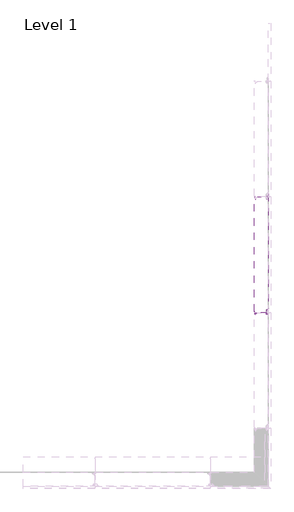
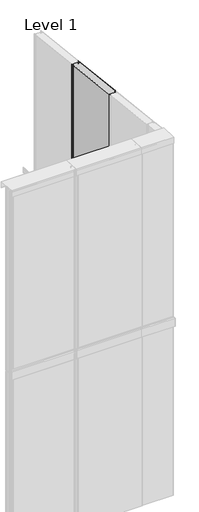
# One storey, part 8 of 12: 1 plate.
"""IFC4 building model written with IfcOpenShell, lengths in millimetres."""

from ifc_helpers import new_model, si_unit, frame, origin, place, context, project, spatial, polyline, circle_curve, ellipse_curve, element, save
from ifc_brep_helpers import plane_surface, cylinder_surface, revolved_surface, advanced_brep

model = new_model("IFC4")

# Units and contexts
model_context = context("Model", 3, world=origin())
ifc_project = project(units=[si_unit("LENGTHUNIT", "METRE", prefix="MILLI")], contexts=[model_context])

# Site, building, storey
site = spatial("IfcSite", under=ifc_project)
building = spatial("IfcBuilding", under=site)
storey = spatial("IfcBuildingStorey", under=building, Name="Level 1", Elevation=0.0)

# Plate
placement = place(None, origin())
element("IfcPlate", 1, ObjectType="TR_C_V_FHL_Panel : 120/RAL9006/RAL9002", at=placement, inside=storey, context=model_context, shape_type="AdvancedBrep", body=[
    advanced_brep(
    [(-3994.9155057, 6494.7075287, 3000.0), (-3995.5197088, 6496.0971008, 3000.0), (-3997.4653075, 6497.9114009, 3000.0), (-3999.3155057, 6497.1069118, 3000.0), (-3999.3155057, 6464.7801836, 3000.0), (-3999.4952944, 6463.7058087, 3000.0), (-4001.8344941, 6456.9122794, 3000.0), (-4011.3488891, 6458.0805002, 3000.0), (-4012.2128026, 6467.9550766, 3000.0), (-4013.9063336, 6469.5069118, 3000.0), (-4014.9155057, 6469.5069118, 3000.0), (-4014.9155057, 6470.3069118, 3000.0), (-4013.9063336, 6470.3069118, 3000.0), (-4011.4158468, 6468.0248012, 3000.0), (-4010.5519334, 6458.1502248, 3000.0), (-4002.5909089, 6457.1727339, 3000.0), (-4000.2517092, 6463.9662632, 3000.0), (-4000.1155057, 6464.7801836, 3000.0), (-4000.1155057, 6497.1069118, 3000.0), (-3996.9197088, 6498.4964839, 3000.0), (-3994.9741101, 6496.6821837, 3000.0), (-3994.1155057, 6494.7075287, 3000.0), (-3994.1155057, 5506.1698321, 3000.0), (-3994.9063173, 5504.2606438, 3000.0), (-3999.7297192, 5499.4372419, 3000.0), (-4000.3155057, 5498.0230283, 3000.0), (-4000.3155057, 5495.2069118, 3000.0), (-4003.0155057, 5492.5069118, 3000.0), (-4008.9155057, 5492.5069118, 3000.0), (-4010.9155057, 5490.5069118, 3000.0), (-4010.9155057, 5471.4069118, 3000.0), (-4009.8237435, 5458.9280134, 3000.0), (-4003.610261, 5458.1650937, 3000.0), (-4003.3006468, 5459.0642787, 3000.0), (-4002.544232, 5458.8038241, 3000.0), (-4002.8538462, 5457.9046392, 3000.0), (-4010.6206993, 5458.8582889, 3000.0), (-4011.7155057, 5471.3719831, 3000.0), (-4011.7155057, 5490.5069118, 3000.0), (-4008.9155057, 5493.3069118, 3000.0), (-4003.0155057, 5493.3069118, 3000.0), (-4001.1155057, 5495.2069118, 3000.0), (-4001.1155057, 5498.0230283, 3000.0), (-4000.2954046, 5500.0029273, 3000.0), (-3995.4720028, 5504.8263292, 3000.0), (-3994.9155057, 5506.1698321, 3000.0), (-3994.1155057, 6494.7075287, 5700.3371376), (-3994.1155057, 5506.1698321, 5815.2833814), (-3994.9155057, 5506.1698321, 5815.2833814), (-3994.9155057, 6494.7075287, 5700.3371376), (-3995.4720028, 5504.8263292, 5815.4396027), (-4000.2954046, 5500.0029273, 5816.0004633), (-4001.1155057, 5498.0230283, 5816.2306842), (-4001.1155057, 5495.2069118, 5816.5581396), (-4003.0155057, 5493.3069118, 5816.7790698), (-4008.9155057, 5493.3069118, 5816.7790698), (-4011.7155057, 5490.5069118, 5817.1046512), (-4011.7155057, 5471.3719831, 5819.3296429), (-4010.6206993, 5458.8582889, 5820.7847236), (-4002.8538462, 5457.9046392, 5820.8956131), (-4002.544232, 5458.8038241, 5820.7910567), (-4003.3006468, 5459.0642787, 5820.7607713), (-4003.610261, 5458.1650937, 5820.8653277), (-4009.8237435, 5458.9280134, 5820.7766161), (-4010.9155057, 5471.4069118, 5819.3255814), (-4010.9155057, 5490.5069118, 5817.1046512), (-4008.9155057, 5492.5069118, 5816.8720931), (-4003.0155057, 5492.5069118, 5816.8720931), (-4000.3155057, 5495.2069118, 5816.5581396), (-4000.3155057, 5498.0230283, 5816.2306842), (-3999.7297192, 5499.4372419, 5816.0662407), (-3994.9063173, 5504.2606438, 5815.50538), (-3994.9741101, 6496.6821837, 5700.1075266), (-3996.9197088, 6498.4964839, 5699.8965614), (-4000.1155057, 6497.1069118, 5700.0581396), (-4000.1155057, 6464.7801836, 5703.8170615), (-4000.2517092, 6463.9662632, 5703.9117034), (-4002.5909089, 6457.1727339, 5704.7016486), (-4010.5519334, 6458.1502248, 5704.5879869), (-4011.4158468, 6468.0248012, 5703.4397803), (-4013.9063336, 6470.3069118, 5703.1744186), (-4014.9155057, 6470.3069118, 5703.1744186), (-4014.9155057, 6469.5069118, 5703.2674419), (-4013.9063336, 6469.5069118, 5703.2674419), (-4012.2128026, 6467.9550766, 5703.4478879), (-4011.3488891, 6458.0805002, 5704.5960944), (-4001.8344941, 6456.9122794, 5704.731934), (-3999.4952944, 6463.7058087, 5703.9419888), (-3999.3155057, 6464.7801836, 5703.8170615), (-3999.3155057, 6497.1069118, 5700.0581396), (-3997.4653075, 6497.9114009, 5699.9645943), (-3995.5197088, 6496.0971008, 5700.1755595)],
    [
        (0, 1, circle_curve(frame((-3996.8155057, 6494.7075287, 3000.0), z_axis=(0.0, 0.0, 1.0), x_axis=(0.0, -1.0, 0.0)), 1.9)),
        (1, 2),
        (2, 3, circle_curve(frame((-3998.2155057, 6497.1069118, 3000.0), z_axis=(0.0, 0.0, 1.0), x_axis=(0.0, -1.0, 0.0)), 1.1)),
        (3, 4),
        (4, 5, circle_curve(frame((-4002.6155057, 6464.7801836, 3000.0), z_axis=(0.0, 0.0, -1.0), x_axis=(0.0, -1.0, 0.0)), 3.3)),
        (5, 6),
        (6, 7, circle_curve(frame((-4006.4675351, 6458.5075634, 3000.0), z_axis=(0.0, 0.0, -1.0), x_axis=(0.0, -1.0, 0.0)), 4.9)),
        (7, 8),
        (8, 9, circle_curve(frame((-4013.9063336, 6467.8069118, 3000.0), z_axis=(0.0, 0.0, 1.0), x_axis=(0.0, -1.0, 0.0)), 1.7)),
        (9, 10),
        (10, 11),
        (11, 12),
        (12, 13, circle_curve(frame((-4013.9063336, 6467.8069118, 3000.0), z_axis=(0.0, 0.0, -1.0), x_axis=(0.0, -1.0, 0.0)), 2.5)),
        (13, 14),
        (14, 15, circle_curve(frame((-4006.4675351, 6458.5075634, 3000.0), z_axis=(0.0, 0.0, 1.0), x_axis=(0.0, -1.0, 0.0)), 4.1)),
        (15, 16),
        (16, 17, circle_curve(frame((-4002.6155057, 6464.7801836, 3000.0), z_axis=(0.0, 0.0, 1.0), x_axis=(0.0, -1.0, 0.0)), 2.5)),
        (17, 18),
        (18, 19, circle_curve(frame((-3998.2155057, 6497.1069118, 3000.0), z_axis=(0.0, 0.0, -1.0), x_axis=(0.0, -1.0, 0.0)), 1.9)),
        (19, 20),
        (20, 21, circle_curve(frame((-3996.8155057, 6494.7075287, 3000.0), z_axis=(0.0, 0.0, -1.0), x_axis=(0.0, -1.0, 0.0)), 2.7)),
        (21, 22),
        (22, 23, circle_curve(frame((-3996.8155057, 5506.1698321, 3000.0), z_axis=(0.0, 0.0, -1.0), x_axis=(0.0, -1.0, 0.0)), 2.7)),
        (23, 24),
        (24, 25, circle_curve(frame((-3998.3155057, 5498.0230283, 3000.0), z_axis=(0.0, 0.0, 1.0), x_axis=(0.0, -1.0, 0.0)), 2.0)),
        (25, 26),
        (26, 27, circle_curve(frame((-4003.0155057, 5495.2069118, 3000.0), z_axis=(0.0, 0.0, -1.0), x_axis=(0.0, -1.0, 0.0)), 2.7)),
        (27, 28),
        (28, 29, circle_curve(frame((-4008.9155057, 5490.5069118, 3000.0), z_axis=(0.0, 0.0, 1.0), x_axis=(0.0, -1.0, 0.0)), 2.0)),
        (29, 30),
        (30, 31),
        (31, 32, circle_curve(frame((-4006.6359205, 5459.2069118, 3000.0), z_axis=(0.0, 0.0, 1.0), x_axis=(0.0, -1.0, 0.0)), 3.2)),
        (32, 33),
        (33, 34),
        (34, 35),
        (35, 36, circle_curve(frame((-4006.6359205, 5459.2069118, 3000.0), z_axis=(0.0, 0.0, -1.0), x_axis=(0.0, -1.0, 0.0)), 4.0)),
        (36, 37),
        (37, 38),
        (38, 39, circle_curve(frame((-4008.9155057, 5490.5069118, 3000.0), z_axis=(0.0, 0.0, -1.0), x_axis=(0.0, -1.0, 0.0)), 2.8)),
        (39, 40),
        (40, 41, circle_curve(frame((-4003.0155057, 5495.2069118, 3000.0), z_axis=(0.0, 0.0, 1.0), x_axis=(0.0, -1.0, 0.0)), 1.9)),
        (41, 42),
        (42, 43, circle_curve(frame((-3998.3155057, 5498.0230283, 3000.0), z_axis=(0.0, 0.0, -1.0), x_axis=(0.0, -1.0, 0.0)), 2.8)),
        (43, 44),
        (44, 45, circle_curve(frame((-3996.8155057, 5506.1698321, 3000.0), z_axis=(0.0, 0.0, 1.0), x_axis=(0.0, -1.0, 0.0)), 1.9)),
        (45, 0),
        (21, 46),
        (46, 47),
        (47, 22),
        (45, 48),
        (48, 49),
        (49, 0),
        (44, 50),
        (50, 48, ellipse_curve(frame((-3996.8155057, 5506.1698321, 5815.2833814), z_axis=(0.0, 0.1155008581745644, 0.9933073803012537), x_axis=(0.0, 0.9933073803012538, -0.11550085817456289)), 1.9128017, 1.9)),
        (43, 51),
        (51, 50),
        (42, 52),
        (52, 51, ellipse_curve(frame((-3998.3155057, 5498.0230283, 5816.2306842), z_axis=(0.0, -0.1155008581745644, -0.9933073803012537), x_axis=(0.0, -0.9933073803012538, 0.11550085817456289)), 2.8188656, 2.8)),
        (41, 53),
        (53, 52),
        (40, 54),
        (54, 53, ellipse_curve(frame((-4003.0155057, 5495.2069118, 5816.5581396), z_axis=(0.0, 0.1155008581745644, 0.9933073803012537), x_axis=(0.0, 0.9933073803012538, -0.11550085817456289)), 1.9128017, 1.9)),
        (39, 55),
        (55, 54),
        (38, 56),
        (56, 55, ellipse_curve(frame((-4008.9155057, 5490.5069118, 5817.1046512), z_axis=(0.0, -0.1155008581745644, -0.9933073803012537), x_axis=(0.0, -0.9933073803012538, 0.11550085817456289)), 2.8188656, 2.8)),
        (37, 57),
        (57, 56),
        (36, 58),
        (58, 57),
        (35, 59),
        (59, 58, ellipse_curve(frame((-4006.6359205, 5459.2069118, 5820.7441861), z_axis=(0.0, -0.1155008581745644, -0.9933073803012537), x_axis=(0.0, -0.9933073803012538, 0.11550085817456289)), 4.0269509, 4.0)),
        (34, 60),
        (60, 59),
        (33, 61),
        (61, 60),
        (32, 62),
        (62, 61),
        (31, 63),
        (63, 62, ellipse_curve(frame((-4006.6359205, 5459.2069118, 5820.7441861), z_axis=(0.0, 0.1155008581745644, 0.9933073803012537), x_axis=(0.0, 0.9933073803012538, -0.11550085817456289)), 3.2215607, 3.2)),
        (30, 64),
        (64, 63),
        (29, 65),
        (65, 64),
        (28, 66),
        (66, 65, ellipse_curve(frame((-4008.9155057, 5490.5069118, 5817.1046512), z_axis=(0.0, 0.1155008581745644, 0.9933073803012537), x_axis=(0.0, 0.9933073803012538, -0.11550085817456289)), 2.0134754, 2.0)),
        (27, 67),
        (67, 66),
        (26, 68),
        (68, 67, ellipse_curve(frame((-4003.0155057, 5495.2069118, 5816.5581396), z_axis=(0.0, -0.1155008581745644, -0.9933073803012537), x_axis=(0.0, -0.9933073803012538, 0.11550085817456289)), 2.7181918, 2.7)),
        (25, 69),
        (69, 68),
        (24, 70),
        (70, 69, ellipse_curve(frame((-3998.3155057, 5498.0230283, 5816.2306842), z_axis=(0.0, 0.1155008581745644, 0.9933073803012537), x_axis=(0.0, 0.9933073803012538, -0.11550085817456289)), 2.0134754, 2.0)),
        (23, 71),
        (71, 70),
        (47, 71, ellipse_curve(frame((-3996.8155057, 5506.1698321, 5815.2833814), z_axis=(0.0, -0.1155008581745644, -0.9933073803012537), x_axis=(0.0, -0.9933073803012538, 0.11550085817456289)), 2.7181918, 2.7)),
        (20, 72),
        (72, 46, ellipse_curve(frame((-3996.8155057, 6494.7075287, 5700.3371376), z_axis=(0.0, -0.1155008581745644, -0.9933073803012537), x_axis=(0.0, -0.9933073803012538, 0.11550085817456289)), 2.7181918, 2.7)),
        (19, 73),
        (73, 72),
        (18, 74),
        (74, 73, ellipse_curve(frame((-3998.2155057, 6497.1069118, 5700.0581396), z_axis=(0.0, -0.1155008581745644, -0.9933073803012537), x_axis=(0.0, -0.9933073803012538, 0.11550085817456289)), 1.9128017, 1.9)),
        (17, 75),
        (75, 74),
        (16, 76),
        (76, 75, ellipse_curve(frame((-4002.6155057, 6464.7801836, 5703.8170615), z_axis=(0.0, 0.1155008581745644, 0.9933073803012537), x_axis=(0.0, 0.9933073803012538, -0.11550085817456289)), 2.5168443, 2.5)),
        (15, 77),
        (77, 76),
        (14, 78),
        (78, 77, ellipse_curve(frame((-4006.4675351, 6458.5075634, 5704.5464359), z_axis=(0.0, 0.1155008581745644, 0.9933073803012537), x_axis=(0.0, 0.9933073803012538, -0.11550085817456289)), 4.1276246, 4.1)),
        (13, 79),
        (79, 78),
        (12, 80),
        (80, 79, ellipse_curve(frame((-4013.9063336, 6467.8069118, 5703.4651163), z_axis=(0.0, -0.1155008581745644, -0.9933073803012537), x_axis=(0.0, -0.9933073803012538, 0.11550085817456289)), 2.5168443, 2.5)),
        (11, 81),
        (81, 80),
        (10, 82),
        (82, 81),
        (9, 83),
        (83, 82),
        (8, 84),
        (84, 83, ellipse_curve(frame((-4013.9063336, 6467.8069118, 5703.4651163), z_axis=(0.0, 0.1155008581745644, 0.9933073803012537), x_axis=(0.0, 0.9933073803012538, -0.11550085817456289)), 1.7114541, 1.7)),
        (7, 85),
        (85, 84),
        (6, 86),
        (86, 85, ellipse_curve(frame((-4006.4675351, 6458.5075634, 5704.5464359), z_axis=(0.0, -0.1155008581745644, -0.9933073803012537), x_axis=(0.0, -0.9933073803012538, 0.11550085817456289)), 4.9330148, 4.9)),
        (5, 87),
        (87, 86),
        (4, 88),
        (88, 87, ellipse_curve(frame((-4002.6155057, 6464.7801836, 5703.8170615), z_axis=(0.0, -0.1155008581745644, -0.9933073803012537), x_axis=(0.0, -0.9933073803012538, 0.11550085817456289)), 3.3222345, 3.3)),
        (3, 89),
        (89, 88),
        (2, 90),
        (90, 89, ellipse_curve(frame((-3998.2155057, 6497.1069118, 5700.0581396), z_axis=(0.0, 0.1155008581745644, 0.9933073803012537), x_axis=(0.0, 0.9933073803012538, -0.11550085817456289)), 1.1074115, 1.1)),
        (1, 91),
        (91, 90),
        (49, 91, ellipse_curve(frame((-3996.8155057, 6494.7075287, 5700.3371376), z_axis=(0.0, 0.1155008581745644, 0.9933073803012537), x_axis=(0.0, 0.9933073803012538, -0.11550085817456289)), 1.9128017, 1.9)),
    ],
    [
        plane_surface(frame((-3994.9155057, 5485.2850853, 3000.0), z_axis=(0.0, 0.0, -1.0), x_axis=(0.0, 1.0, 0.0))),
        plane_surface(frame((-3994.1155057, 5506.1698321, 5980.0), z_axis=(1.0, 0.0, 0.0), x_axis=(0.0, 0.0, -1.0))),
        plane_surface(frame((-3994.9155057, 6494.7075287, 5980.0), z_axis=(-1.0, 0.0, 0.0), x_axis=(0.0, 0.0, -1.0))),
        revolved_surface(polyline([(-3996.8155057, 5504.269832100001, 3000.0), (-3996.8155057, 5504.269832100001, 5815.504311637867)]), (-3996.8155057, 5506.1698321, 3000.0), (0.0, 0.0, -1.0)),
        plane_surface(frame((-3995.4720028, 5504.8263292, 5980.0), z_axis=(-0.7071067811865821, 0.7071067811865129, 0.0), x_axis=(0.0, 0.0, -1.0))),
        cylinder_surface(frame((-3998.3155057, 5498.0230283, 3000.0), z_axis=(0.0, 0.0, 1.0), x_axis=(0.0, -1.0, 0.0)), 2.8),
        plane_surface(frame((-4001.1155057, 5498.0230283, 5980.0), z_axis=(-1.0, 0.0, 0.0), x_axis=(0.0, 0.0, -1.0))),
        revolved_surface(polyline([(-4003.0155057, 5493.3069118, 3000.0), (-4003.0155057, 5493.3069118, 5816.779069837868)]), (-4003.0155057, 5495.2069118, 3000.0), (0.0, 0.0, -1.0)),
        plane_surface(frame((-4003.0155057, 5493.3069118, 5980.0), z_axis=(0.0, 1.0, 0.0), x_axis=(0.0, 0.0, -1.0))),
        cylinder_surface(frame((-4008.9155057, 5490.5069118, 3000.0), z_axis=(0.0, 0.0, 1.0), x_axis=(0.0, -1.0, 0.0)), 2.8),
        plane_surface(frame((-4011.7155057, 5490.5069118, 5980.0), z_axis=(-1.0, 0.0, 0.0), x_axis=(0.0, 0.0, -1.0))),
        plane_surface(frame((-4011.7155057, 5471.3719831, 5980.0), z_axis=(-0.9961946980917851, -0.08715574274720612, 0.0), x_axis=(0.0, 0.0, -1.0))),
        cylinder_surface(frame((-4006.6359205, 5459.2069118, 3000.0), z_axis=(0.0, 0.0, 1.0), x_axis=(0.0, -1.0, 0.0)), 4.0),
        plane_surface(frame((-4002.8538462, 5457.9046392, 5980.0), z_axis=(0.9455185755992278, -0.32556815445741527, 0.0), x_axis=(0.0, 0.0, -1.0))),
        plane_surface(frame((-4002.544232, 5458.8038241, 5980.0), z_axis=(0.325568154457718, 0.9455185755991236, 0.0), x_axis=(0.0, 0.0, -1.0))),
        plane_surface(frame((-4003.3006468, 5459.0642787, 5980.0), z_axis=(-0.9455185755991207, 0.32556815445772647, 0.0), x_axis=(0.0, 0.0, -1.0))),
        revolved_surface(polyline([(-4006.6359205, 5456.0069118, 3000.0), (-4006.6359205, 5456.0069118, 5821.116279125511)]), (-4006.6359205, 5459.2069118, 3000.0), (0.0, 0.0, -1.0)),
        plane_surface(frame((-4009.8237435, 5458.9280134, 5980.0), z_axis=(0.9961946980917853, 0.08715574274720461, 0.0), x_axis=(0.0, 0.0, -1.0))),
        plane_surface(frame((-4010.9155057, 5471.4069118, 5980.0), z_axis=(1.0, 0.0, 0.0), x_axis=(0.0, 0.0, -1.0))),
        revolved_surface(polyline([(-4008.9155057, 5488.5069118, 3000.0), (-4008.9155057, 5488.5069118, 5817.337209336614)]), (-4008.9155057, 5490.5069118, 3000.0), (0.0, 0.0, -1.0)),
        plane_surface(frame((-4008.9155057, 5492.5069118, 5980.0), z_axis=(0.0, -1.0, 0.0), x_axis=(0.0, 0.0, -1.0))),
        cylinder_surface(frame((-4003.0155057, 5495.2069118, 3000.0), z_axis=(0.0, 0.0, 1.0), x_axis=(0.0, -1.0, 0.0)), 2.7),
        plane_surface(frame((-4000.3155057, 5495.2069118, 5980.0), z_axis=(1.0, 0.0, 0.0), x_axis=(0.0, 0.0, -1.0))),
        revolved_surface(polyline([(-3998.3155057, 5496.0230283, 3000.0), (-3998.3155057, 5496.0230283, 5816.463242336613)]), (-3998.3155057, 5498.0230283, 3000.0), (0.0, 0.0, -1.0)),
        plane_surface(frame((-3999.7297192, 5499.4372419, 5980.0), z_axis=(0.7071067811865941, -0.707106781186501, 0.0), x_axis=(0.0, 0.0, -1.0))),
        cylinder_surface(frame((-3996.8155057, 5506.1698321, 3000.0), z_axis=(0.0, 0.0, 1.0), x_axis=(0.0, -1.0, 0.0)), 2.7),
        cylinder_surface(frame((-3996.8155057, 6494.7075287, 3000.0), z_axis=(0.0, 0.0, 1.0), x_axis=(0.0, -1.0, 0.0)), 2.7),
        plane_surface(frame((-3994.9741101, 6496.6821837, 5980.0), z_axis=(0.6819983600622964, 0.7313537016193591, 0.0), x_axis=(0.0, 0.0, -1.0))),
        cylinder_surface(frame((-3998.2155057, 6497.1069118, 3000.0), z_axis=(0.0, 0.0, 1.0), x_axis=(0.0, -1.0, 0.0)), 1.9),
        plane_surface(frame((-4000.1155057, 6497.1069118, 5980.0), z_axis=(-1.0, 0.0, 0.0), x_axis=(0.0, 0.0, -1.0))),
        revolved_surface(polyline([(-4002.6155057, 6462.2801836, 3000.0), (-4002.6155057, 6462.2801836, 5704.107759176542)]), (-4002.6155057, 6464.7801836, 3000.0), (0.0, 0.0, -1.0)),
        plane_surface(frame((-4000.2517092, 6463.9662632, 5980.0), z_axis=(-0.9455185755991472, 0.3255681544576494, 0.0), x_axis=(0.0, 0.0, -1.0))),
        revolved_surface(polyline([(-4006.4675351, 6454.4075634, 3000.0), (-4006.4675351, 6454.4075634, 5705.023180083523)]), (-4006.4675351, 6458.5075634, 3000.0), (0.0, 0.0, -1.0)),
        plane_surface(frame((-4010.5519334, 6458.1502248, 5980.0), z_axis=(0.9961946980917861, 0.08715574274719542, 0.0), x_axis=(0.0, 0.0, -1.0))),
        cylinder_surface(frame((-4013.9063336, 6467.8069118, 3000.0), z_axis=(0.0, 0.0, 1.0), x_axis=(0.0, -1.0, 0.0)), 2.5),
        plane_surface(frame((-4013.9063336, 6470.3069118, 5980.0), z_axis=(0.0, 1.0, 0.0), x_axis=(0.0, 0.0, -1.0))),
        plane_surface(frame((-4014.9155057, 6470.3069118, 5980.0), z_axis=(-1.0, 0.0, 0.0), x_axis=(0.0, 0.0, -1.0))),
        plane_surface(frame((-4014.9155057, 6469.5069118, 5980.0), z_axis=(0.0, -1.0, 0.0), x_axis=(0.0, 0.0, -1.0))),
        revolved_surface(polyline([(-4013.9063336, 6466.1069118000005, 3000.0), (-4013.9063336, 6466.1069118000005, 5703.662790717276)]), (-4013.9063336, 6467.8069118, 3000.0), (0.0, 0.0, -1.0)),
        plane_surface(frame((-4012.2128026, 6467.9550766, 5980.0), z_axis=(-0.9961946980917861, -0.08715574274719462, 0.0), x_axis=(0.0, 0.0, -1.0))),
        cylinder_surface(frame((-4006.4675351, 6458.5075634, 3000.0), z_axis=(0.0, 0.0, 1.0), x_axis=(0.0, -1.0, 0.0)), 4.9),
        plane_surface(frame((-4001.8344941, 6456.9122794, 5980.0), z_axis=(0.9455185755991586, -0.3255681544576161, 0.0), x_axis=(0.0, 0.0, -1.0))),
        cylinder_surface(frame((-4002.6155057, 6464.7801836, 3000.0), z_axis=(0.0, 0.0, 1.0), x_axis=(0.0, -1.0, 0.0)), 3.3),
        plane_surface(frame((-3999.3155057, 6464.7801836, 5980.0), z_axis=(1.0, 0.0, 0.0), x_axis=(0.0, 0.0, -1.0))),
        revolved_surface(polyline([(-3998.2155057, 6496.006911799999, 3000.0), (-3998.2155057, 6496.006911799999, 5700.186046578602)]), (-3998.2155057, 6497.1069118, 3000.0), (0.0, 0.0, -1.0)),
        plane_surface(frame((-3997.4653075, 6497.9114009, 5980.0), z_axis=(-0.6819983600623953, -0.7313537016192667, 0.0), x_axis=(0.0, 0.0, -1.0))),
        revolved_surface(polyline([(-3996.8155057, 6492.8075287, 3000.0), (-3996.8155057, 6492.8075287, 5700.558067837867)]), (-3996.8155057, 6494.7075287, 3000.0), (0.0, 0.0, -1.0)),
        plane_surface(frame((-3994.1155057, 6239.6069121, 5730.0), z_axis=(0.0, 0.1155008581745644, 0.9933073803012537), x_axis=(0.0, -0.9933073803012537, 0.1155008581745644))),
    ],
    [
        (0, [[1, 2, 3, 4, 5, 6, 7, 8, 9, 10, 11, 12, 13, 14, 15, 16, 17, 18, 19, 20, 21, 22, 23, 24, 25, 26, 27, 28, 29, 30, 31, 32, 33, 34, 35, 36, 37, 38, 39, 40, 41, 42, 43, 44, 45, 46]]),
        (1, [[-22, 47, 48, 49]]),
        (2, [[-46, 50, 51, 52]]),
        (3, [[-45, 53, 54, -50]]),
        (4, [[-44, 55, 56, -53]]),
        (5, [[-43, 57, 58, -55]]),
        (6, [[-42, 59, 60, -57]]),
        (7, [[-41, 61, 62, -59]]),
        (8, [[-40, 63, 64, -61]]),
        (9, [[-39, 65, 66, -63]]),
        (10, [[-38, 67, 68, -65]]),
        (11, [[-37, 69, 70, -67]]),
        (12, [[-36, 71, 72, -69]]),
        (13, [[-35, 73, 74, -71]]),
        (14, [[-34, 75, 76, -73]]),
        (15, [[-33, 77, 78, -75]]),
        (16, [[-32, 79, 80, -77]]),
        (17, [[-31, 81, 82, -79]]),
        (18, [[-30, 83, 84, -81]]),
        (19, [[-29, 85, 86, -83]]),
        (20, [[-28, 87, 88, -85]]),
        (21, [[-27, 89, 90, -87]]),
        (22, [[-26, 91, 92, -89]]),
        (23, [[-25, 93, 94, -91]]),
        (24, [[-24, 95, 96, -93]]),
        (25, [[-23, -49, 97, -95]]),
        (26, [[-21, 98, 99, -47]]),
        (27, [[-20, 100, 101, -98]]),
        (28, [[-19, 102, 103, -100]]),
        (29, [[-18, 104, 105, -102]]),
        (30, [[-17, 106, 107, -104]]),
        (31, [[-16, 108, 109, -106]]),
        (32, [[-15, 110, 111, -108]]),
        (33, [[-14, 112, 113, -110]]),
        (34, [[-13, 114, 115, -112]]),
        (35, [[-12, 116, 117, -114]]),
        (36, [[-11, 118, 119, -116]]),
        (37, [[-10, 120, 121, -118]]),
        (38, [[-9, 122, 123, -120]]),
        (39, [[-8, 124, 125, -122]]),
        (40, [[-7, 126, 127, -124]]),
        (41, [[-6, 128, 129, -126]]),
        (42, [[-5, 130, 131, -128]]),
        (43, [[-4, 132, 133, -130]]),
        (44, [[-3, 134, 135, -132]]),
        (45, [[-2, 136, 137, -134]]),
        (46, [[-1, -52, 138, -136]]),
        (47, [[-48, -99, -101, -103, -105, -107, -109, -111, -113, -115, -117, -119, -121, -123, -125, -127, -129, -131, -133, -135, -137, -138, -51, -54, -56, -58, -60, -62, -64, -66, -68, -70, -72, -74, -76, -78, -80, -82, -84, -86, -88, -90, -92, -94, -96, -97]]),
    ],
),
    advanced_brep(
    [(-4113.3155057, 6449.7069118, 3000.0), (-4104.6655057, 6449.7069118, 3000.0), (-4100.4800727, 6453.2189071, 3000.0), (-4099.4132474, 6459.2691739, 3000.0), (-4096.5080645, 6461.7069118, 3000.0), (-4088.9755057, 6461.7069118, 3000.0), (-4088.9755057, 6469.6069118, 3000.0), (-4014.9155057, 6469.6069118, 3000.0), (-4013.9063336, 6469.5069118, 3000.0), (-4012.2128026, 6467.9550766, 3000.0), (-4011.3488891, 6458.0805002, 3000.0), (-4006.4675351, 6453.6075634, 3000.0), (-3994.9155057, 6453.6075634, 3000.0), (-3994.9155057, 5506.1698321, 3000.0), (-3995.4720028, 5504.8263292, 3000.0), (-4000.2954046, 5500.0029273, 3000.0), (-4001.1155057, 5498.0230283, 3000.0), (-4001.1155057, 5495.2069118, 3000.0), (-4003.0155057, 5493.3069118, 3000.0), (-4008.9155057, 5493.3069118, 3000.0), (-4011.7155057, 5490.5069118, 3000.0), (-4011.7155057, 5471.3719831, 3000.0), (-4011.5610819, 5469.6069118, 3000.0), (-4107.3155057, 5469.6069118, 3000.0), (-4107.3155057, 5471.5069118, 3000.0), (-4108.2820533, 5473.8403642, 3000.0), (-4112.6711406, 5478.2294515, 3000.0), (-4113.3155057, 5479.7850864, 3000.0), (-4113.3155057, 5479.7850864, 5818.3513751), (-4113.3155057, 6449.7069118, 5705.5697675), (-4112.6711406, 5478.2294515, 5818.5322629), (-4108.2820533, 5473.8403642, 5819.0426219), (-4107.3155057, 5471.5069118, 5819.3139535), (-4107.3155057, 5469.6069118, 5819.5348838), (-4011.5610819, 5469.6069118, 5819.5348838), (-4011.7155057, 5471.3719831, 5819.3296429), (-4011.7155057, 5490.5069118, 5817.1046512), (-4008.9155057, 5493.3069118, 5816.7790698), (-4003.0155057, 5493.3069118, 5816.7790698), (-4001.1155057, 5495.2069118, 5816.5581396), (-4001.1155057, 5498.0230283, 5816.2306842), (-4000.2954046, 5500.0029273, 5816.0004633), (-3995.4720028, 5504.8263292, 5815.4396027), (-3994.9155057, 5506.1698321, 5815.2833814), (-3994.9155057, 6453.6075634, 5705.1162033), (-4006.4675351, 6453.6075634, 5705.1162033), (-4011.3488891, 6458.0805002, 5704.5960944), (-4012.2128026, 6467.9550766, 5703.4478879), (-4013.9063336, 6469.5069118, 5703.2674419), (-4014.9155057, 6469.6069118, 5703.255814), (-4088.9755057, 6469.6069118, 5703.255814), (-4088.9755057, 6461.7069118, 5704.1744186), (-4096.5080645, 6461.7069118, 5704.1744186), (-4099.4132474, 6459.2691739, 5704.4578765), (-4100.4800727, 6453.2189071, 5705.1613959), (-4104.6655057, 6449.7069118, 5705.5697675)],
    [
        (0, 1),
        (1, 2, circle_curve(frame((-4104.6655057, 6453.9569118, 3000.0), z_axis=(0.0, 0.0, 1.0), x_axis=(0.0, -1.0, 0.0)), 4.25)),
        (2, 3),
        (3, 4, circle_curve(frame((-4096.5080645, 6458.7569118, 3000.0), z_axis=(0.0, 0.0, -1.0), x_axis=(0.0, -1.0, 0.0)), 2.95)),
        (4, 5),
        (5, 6),
        (6, 7),
        (7, 8),
        (8, 9, circle_curve(frame((-4013.9063336, 6467.8069118, 3000.0), z_axis=(0.0, 0.0, -1.0), x_axis=(0.0, -1.0, 0.0)), 1.7)),
        (9, 10),
        (10, 11, circle_curve(frame((-4006.4675351, 6458.5075634, 3000.0), z_axis=(0.0, 0.0, 1.0), x_axis=(0.0, -1.0, 0.0)), 4.9)),
        (11, 12),
        (12, 13),
        (13, 14, circle_curve(frame((-3996.8155057, 5506.1698321, 3000.0), z_axis=(0.0, 0.0, -1.0), x_axis=(0.0, -1.0, 0.0)), 1.9)),
        (14, 15),
        (15, 16, circle_curve(frame((-3998.3155057, 5498.0230283, 3000.0), z_axis=(0.0, 0.0, 1.0), x_axis=(0.0, -1.0, 0.0)), 2.8)),
        (16, 17),
        (17, 18, circle_curve(frame((-4003.0155057, 5495.2069118, 3000.0), z_axis=(0.0, 0.0, -1.0), x_axis=(0.0, -1.0, 0.0)), 1.9)),
        (18, 19),
        (19, 20, circle_curve(frame((-4008.9155057, 5490.5069118, 3000.0), z_axis=(0.0, 0.0, 1.0), x_axis=(0.0, -1.0, 0.0)), 2.8)),
        (20, 21),
        (21, 22),
        (22, 23),
        (23, 24),
        (24, 25, circle_curve(frame((-4110.6155057, 5471.5069118, 3000.0), z_axis=(0.0, 0.0, 1.0), x_axis=(0.0, -1.0, 0.0)), 3.3)),
        (25, 26),
        (26, 27, circle_curve(frame((-4111.1155057, 5479.7850864, 3000.0), z_axis=(0.0, 0.0, -1.0), x_axis=(0.0, -1.0, 0.0)), 2.2)),
        (27, 0),
        (27, 28),
        (28, 29),
        (29, 0),
        (26, 30),
        (30, 28, ellipse_curve(frame((-4111.1155057, 5479.7850864, 5818.3513751), z_axis=(0.0, -0.1155008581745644, -0.9933073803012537), x_axis=(0.0, -0.9933073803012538, 0.11550085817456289)), 2.214823, 2.2)),
        (25, 31),
        (31, 30),
        (24, 32),
        (32, 31, ellipse_curve(frame((-4110.6155057, 5471.5069118, 5819.3139535), z_axis=(0.0, 0.1155008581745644, 0.9933073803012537), x_axis=(0.0, 0.9933073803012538, -0.11550085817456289)), 3.3222345, 3.3)),
        (23, 33),
        (33, 32),
        (22, 34),
        (34, 33),
        (21, 35),
        (35, 34),
        (20, 36),
        (36, 35),
        (19, 37),
        (37, 36, ellipse_curve(frame((-4008.9155057, 5490.5069118, 5817.1046512), z_axis=(0.0, 0.1155008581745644, 0.9933073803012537), x_axis=(0.0, 0.9933073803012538, -0.11550085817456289)), 2.8188656, 2.8)),
        (18, 38),
        (38, 37),
        (17, 39),
        (39, 38, ellipse_curve(frame((-4003.0155057, 5495.2069118, 5816.5581396), z_axis=(0.0, -0.1155008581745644, -0.9933073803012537), x_axis=(0.0, -0.9933073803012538, 0.11550085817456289)), 1.9128017, 1.9)),
        (16, 40),
        (40, 39),
        (15, 41),
        (41, 40, ellipse_curve(frame((-3998.3155057, 5498.0230283, 5816.2306842), z_axis=(0.0, 0.1155008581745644, 0.9933073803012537), x_axis=(0.0, 0.9933073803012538, -0.11550085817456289)), 2.8188656, 2.8)),
        (14, 42),
        (42, 41),
        (13, 43),
        (43, 42, ellipse_curve(frame((-3996.8155057, 5506.1698321, 5815.2833814), z_axis=(0.0, -0.1155008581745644, -0.9933073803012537), x_axis=(0.0, -0.9933073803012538, 0.11550085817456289)), 1.9128017, 1.9)),
        (12, 44),
        (44, 43),
        (11, 45),
        (45, 44),
        (10, 46),
        (46, 45, ellipse_curve(frame((-4006.4675351, 6458.5075634, 5704.5464359), z_axis=(0.0, 0.1155008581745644, 0.9933073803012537), x_axis=(0.0, 0.9933073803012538, -0.11550085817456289)), 4.9330148, 4.9)),
        (9, 47),
        (47, 46),
        (8, 48),
        (48, 47, ellipse_curve(frame((-4013.9063336, 6467.8069118, 5703.4651163), z_axis=(0.0, -0.1155008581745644, -0.9933073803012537), x_axis=(0.0, -0.9933073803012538, 0.11550085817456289)), 1.7114541, 1.7)),
        (7, 49),
        (49, 48),
        (6, 50),
        (50, 49),
        (5, 51),
        (51, 50),
        (4, 52),
        (52, 51),
        (3, 53),
        (53, 52, ellipse_curve(frame((-4096.5080645, 6458.7569118, 5704.5174419), z_axis=(0.0, -0.1155008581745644, -0.9933073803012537), x_axis=(0.0, -0.9933073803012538, 0.11550085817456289)), 2.9698763, 2.95)),
        (2, 54),
        (54, 53),
        (1, 55),
        (55, 54, ellipse_curve(frame((-4104.6655057, 6453.9569118, 5705.0755814), z_axis=(0.0, 0.1155008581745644, 0.9933073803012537), x_axis=(0.0, 0.9933073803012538, -0.11550085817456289)), 4.2786353, 4.25)),
        (29, 55),
    ],
    [
        plane_surface(frame((-4113.3155057, 5479.7850864, 3000.0), z_axis=(0.0, 0.0, -1.0), x_axis=(0.0, 1.0, 0.0))),
        plane_surface(frame((-4113.3155057, 6449.7069118, 5980.0), z_axis=(-1.0, 0.0, 0.0), x_axis=(0.0, 0.0, -1.0))),
        cylinder_surface(frame((-4111.1155057, 5479.7850864, 3000.0), z_axis=(0.0, 0.0, 1.0), x_axis=(0.0, -1.0, 0.0)), 2.2),
        plane_surface(frame((-4112.6711406, 5478.2294515, 5980.0), z_axis=(-0.7071067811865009, -0.7071067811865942, 0.0), x_axis=(0.0, 0.0, -1.0))),
        revolved_surface(polyline([(-4110.6155057, 5468.2069118, 3000.0), (-4110.6155057, 5468.2069118, 5819.697674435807)]), (-4110.6155057, 5471.5069118, 3000.0), (0.0, 0.0, -1.0)),
        plane_surface(frame((-4107.3155057, 5471.5069118, 5980.0), z_axis=(-1.0, 0.0, 0.0), x_axis=(0.0, 0.0, -1.0))),
        plane_surface(frame((-4107.3155057, 5469.6069118, 5980.0), z_axis=(0.0, -1.0, 0.0), x_axis=(0.0, 0.0, -1.0))),
        plane_surface(frame((-4011.5610819, 5469.6069118, 5980.0), z_axis=(0.9961946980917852, 0.08715574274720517, 0.0), x_axis=(0.0, 0.0, -1.0))),
        plane_surface(frame((-4011.7155057, 5471.3719831, 5980.0), z_axis=(1.0, 0.0, 0.0), x_axis=(0.0, 0.0, -1.0))),
        revolved_surface(polyline([(-4008.9155057, 5487.7069118, 3000.0), (-4008.9155057, 5487.7069118, 5817.430232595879)]), (-4008.9155057, 5490.5069118, 3000.0), (0.0, 0.0, -1.0)),
        plane_surface(frame((-4008.9155057, 5493.3069118, 5980.0), z_axis=(0.0, -1.0, 0.0), x_axis=(0.0, 0.0, -1.0))),
        cylinder_surface(frame((-4003.0155057, 5495.2069118, 3000.0), z_axis=(0.0, 0.0, 1.0), x_axis=(0.0, -1.0, 0.0)), 1.9),
        plane_surface(frame((-4001.1155057, 5495.2069118, 5980.0), z_axis=(1.0, 0.0, 0.0), x_axis=(0.0, 0.0, -1.0))),
        revolved_surface(polyline([(-3998.3155057, 5495.2230283, 3000.0), (-3998.3155057, 5495.2230283, 5816.556265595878)]), (-3998.3155057, 5498.0230283, 3000.0), (0.0, 0.0, -1.0)),
        plane_surface(frame((-4000.2954046, 5500.0029273, 5980.0), z_axis=(0.707106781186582, -0.7071067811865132, 0.0), x_axis=(0.0, 0.0, -1.0))),
        cylinder_surface(frame((-3996.8155057, 5506.1698321, 3000.0), z_axis=(0.0, 0.0, 1.0), x_axis=(0.0, -1.0, 0.0)), 1.9),
        plane_surface(frame((-3994.9155057, 5506.1698321, 5980.0), z_axis=(1.0, 0.0, 0.0), x_axis=(0.0, 0.0, -1.0))),
        plane_surface(frame((-3994.9155057, 6453.6075634, 5980.0), z_axis=(0.0, 1.0, 0.0), x_axis=(0.0, 0.0, -1.0))),
        revolved_surface(polyline([(-4006.4675351, 6453.607563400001, 3000.0), (-4006.4675351, 6453.607563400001, 5705.116203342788)]), (-4006.4675351, 6458.5075634, 3000.0), (0.0, 0.0, -1.0)),
        plane_surface(frame((-4011.3488891, 6458.0805002, 5980.0), z_axis=(0.9961946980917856, 0.08715574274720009, 0.0), x_axis=(0.0, 0.0, -1.0))),
        cylinder_surface(frame((-4013.9063336, 6467.8069118, 3000.0), z_axis=(0.0, 0.0, 1.0), x_axis=(0.0, -1.0, 0.0)), 1.7),
        plane_surface(frame((-4013.9063336, 6469.5069118, 5980.0), z_axis=(0.0986081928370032, 0.9951263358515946, 0.0), x_axis=(0.0, 0.0, -1.0))),
        plane_surface(frame((-4014.9155057, 6469.6069118, 5980.0), z_axis=(0.0, 1.0, 0.0), x_axis=(0.0, 0.0, -1.0))),
        plane_surface(frame((-4088.9755057, 6469.6069118, 5980.0), z_axis=(-1.0, 0.0, 0.0), x_axis=(0.0, 0.0, -1.0))),
        plane_surface(frame((-4088.9755057, 6461.7069118, 5980.0), z_axis=(0.0, 1.0, 0.0), x_axis=(0.0, 0.0, -1.0))),
        cylinder_surface(frame((-4096.5080645, 6458.7569118, 3000.0), z_axis=(0.0, 0.0, 1.0), x_axis=(0.0, -1.0, 0.0)), 2.95),
        plane_surface(frame((-4099.4132474, 6459.2691739, 5980.0), z_axis=(-0.984807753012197, 0.1736481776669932, 0.0), x_axis=(0.0, 0.0, -1.0))),
        revolved_surface(polyline([(-4104.6655057, 6449.7069118, 3000.0), (-4104.6655057, 6449.7069118, 5705.5697675)]), (-4104.6655057, 6453.9569118, 3000.0), (0.0, 0.0, -1.0)),
        plane_surface(frame((-4104.6655057, 6449.7069118, 5980.0), z_axis=(0.0, 1.0, 0.0), x_axis=(0.0, 0.0, -1.0))),
        plane_surface(frame((-3994.1155057, 6239.6069121, 5730.0), z_axis=(0.0, 0.1155008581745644, 0.9933073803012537), x_axis=(0.0, -0.9933073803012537, 0.1155008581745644))),
    ],
    [
        (0, [[1, 2, 3, 4, 5, 6, 7, 8, 9, 10, 11, 12, 13, 14, 15, 16, 17, 18, 19, 20, 21, 22, 23, 24, 25, 26, 27, 28]]),
        (1, [[-28, 29, 30, 31]]),
        (2, [[-27, 32, 33, -29]]),
        (3, [[-26, 34, 35, -32]]),
        (4, [[-25, 36, 37, -34]]),
        (5, [[-24, 38, 39, -36]]),
        (6, [[-23, 40, 41, -38]]),
        (7, [[-22, 42, 43, -40]]),
        (8, [[-21, 44, 45, -42]]),
        (9, [[-20, 46, 47, -44]]),
        (10, [[-19, 48, 49, -46]]),
        (11, [[-18, 50, 51, -48]]),
        (12, [[-17, 52, 53, -50]]),
        (13, [[-16, 54, 55, -52]]),
        (14, [[-15, 56, 57, -54]]),
        (15, [[-14, 58, 59, -56]]),
        (16, [[-13, 60, 61, -58]]),
        (17, [[-12, 62, 63, -60]]),
        (18, [[-11, 64, 65, -62]]),
        (19, [[-10, 66, 67, -64]]),
        (20, [[-9, 68, 69, -66]]),
        (21, [[-8, 70, 71, -68]]),
        (22, [[-7, 72, 73, -70]]),
        (23, [[-6, 74, 75, -72]]),
        (24, [[-5, 76, 77, -74]]),
        (25, [[-4, 78, 79, -76]]),
        (26, [[-3, 80, 81, -78]]),
        (27, [[-2, 82, 83, -80]]),
        (28, [[-1, -31, 84, -82]]),
        (29, [[-30, -33, -35, -37, -39, -41, -43, -45, -47, -49, -51, -53, -55, -57, -59, -61, -63, -65, -67, -69, -71, -73, -75, -77, -79, -81, -83, -84]]),
    ],
),
    advanced_brep(
    [(-4093.1155057, 6462.5069118, 3000.0), (-4093.1155057, 6461.7069118, 3000.0), (-4096.5080645, 6461.7069118, 3000.0), (-4099.4132474, 6459.2691739, 3000.0), (-4100.4800727, 6453.2189071, 3000.0), (-4108.9155057, 6453.9569118, 3000.0), (-4108.9155057, 6471.5569118, 3000.0), (-4110.8786785, 6472.3700846, 3000.0), (-4112.7443639, 6470.5043992, 3000.0), (-4113.3155057, 6469.125541, 3000.0), (-4113.3155057, 5479.7850864, 3000.0), (-4112.6711406, 5478.2294515, 3000.0), (-4108.2820533, 5473.8403642, 3000.0), (-4107.3155057, 5471.5069118, 3000.0), (-4107.3155057, 5456.7569118, 3000.0), (-4102.4527267, 5456.3314738, 3000.0), (-4101.7094137, 5460.547011, 3000.0), (-4097.2285384, 5464.3069118, 3000.0), (-4093.1155057, 5464.3069118, 3000.0), (-4093.1155057, 5463.5069118, 3000.0), (-4097.2285384, 5463.5069118, 3000.0), (-4100.9215675, 5460.4080925, 3000.0), (-4101.6648805, 5456.1925552, 3000.0), (-4108.1155057, 5456.7569118, 3000.0), (-4108.1155057, 5471.5069118, 3000.0), (-4108.8477387, 5473.2746788, 3000.0), (-4113.236826, 5477.6637661, 3000.0), (-4114.1155057, 5479.7850864, 3000.0), (-4114.1155057, 6469.125541, 3000.0), (-4113.3100493, 6471.0700846, 3000.0), (-4111.4443639, 6472.93577, 3000.0), (-4108.1155057, 6471.5569118, 3000.0), (-4108.1155057, 6453.9569118, 3000.0), (-4101.2679189, 6453.3578256, 3000.0), (-4100.2010936, 6459.4080925, 3000.0), (-4096.5080645, 6462.5069118, 3000.0), (-4096.5080645, 6462.5069118, 5704.0813954), (-4093.1155057, 6462.5069118, 5704.0813954), (-4100.2010936, 6459.4080925, 5704.4417232), (-4101.2679189, 6453.3578256, 5705.1452426), (-4108.1155057, 6453.9569118, 5705.0755814), (-4108.1155057, 6471.5569118, 5703.0290698), (-4111.4443639, 6472.93577, 5702.8687375), (-4113.3100493, 6471.0700846, 5703.0856776), (-4114.1155057, 6469.125541, 5703.3117873), (-4114.1155057, 5479.7850864, 5818.3513751), (-4113.236826, 5477.6637661, 5818.5980402), (-4108.8477387, 5473.2746788, 5819.1083992), (-4108.1155057, 5471.5069118, 5819.3139535), (-4108.1155057, 5456.7569118, 5821.0290698), (-4101.6648805, 5456.1925552, 5821.0946927), (-4100.9215675, 5460.4080925, 5820.6045139), (-4097.2285384, 5463.5069118, 5820.2441861), (-4093.1155057, 5463.5069118, 5820.2441861), (-4093.1155057, 5464.3069118, 5820.1511628), (-4097.2285384, 5464.3069118, 5820.1511628), (-4101.7094137, 5460.547011, 5820.5883606), (-4102.4527267, 5456.3314738, 5821.0785393), (-4107.3155057, 5456.7569118, 5821.0290698), (-4107.3155057, 5471.5069118, 5819.3139535), (-4108.2820533, 5473.8403642, 5819.0426219), (-4112.6711406, 5478.2294515, 5818.5322629), (-4113.3155057, 5479.7850864, 5818.3513751), (-4113.3155057, 6469.125541, 5703.3117873), (-4112.7443639, 6470.5043992, 5703.151455), (-4110.8786785, 6472.3700846, 5702.9345148), (-4108.9155057, 6471.5569118, 5703.0290698), (-4108.9155057, 6453.9569118, 5705.0755814), (-4100.4800727, 6453.2189071, 5705.1613959), (-4099.4132474, 6459.2691739, 5704.4578765), (-4096.5080645, 6461.7069118, 5704.1744186), (-4093.1155057, 6461.7069118, 5704.1744186)],
    [
        (0, 1),
        (1, 2),
        (2, 3, circle_curve(frame((-4096.5080645, 6458.7569118, 3000.0), z_axis=(0.0, 0.0, 1.0), x_axis=(0.0, -1.0, 0.0)), 2.95)),
        (3, 4),
        (4, 5, circle_curve(frame((-4104.6655057, 6453.9569118, 3000.0), z_axis=(0.0, 0.0, -1.0), x_axis=(0.0, -1.0, 0.0)), 4.25)),
        (5, 6),
        (6, 7, circle_curve(frame((-4110.0655057, 6471.5569118, 3000.0), z_axis=(0.0, 0.0, 1.0), x_axis=(0.0, -1.0, 0.0)), 1.15)),
        (7, 8),
        (8, 9, circle_curve(frame((-4111.3655057, 6469.125541, 3000.0), z_axis=(0.0, 0.0, 1.0), x_axis=(0.0, -1.0, 0.0)), 1.95)),
        (9, 10),
        (10, 11, circle_curve(frame((-4111.1155057, 5479.7850864, 3000.0), z_axis=(0.0, 0.0, 1.0), x_axis=(0.0, -1.0, 0.0)), 2.2)),
        (11, 12),
        (12, 13, circle_curve(frame((-4110.6155057, 5471.5069118, 3000.0), z_axis=(0.0, 0.0, -1.0), x_axis=(0.0, -1.0, 0.0)), 3.3)),
        (13, 14),
        (14, 15, circle_curve(frame((-4104.8655057, 5456.7569118, 3000.0), z_axis=(0.0, 0.0, 1.0), x_axis=(0.0, -1.0, 0.0)), 2.45)),
        (15, 16),
        (16, 17, circle_curve(frame((-4097.2285384, 5459.7569118, 3000.0), z_axis=(0.0, 0.0, -1.0), x_axis=(0.0, -1.0, 0.0)), 4.55)),
        (17, 18),
        (18, 19),
        (19, 20),
        (20, 21, circle_curve(frame((-4097.2285384, 5459.7569118, 3000.0), z_axis=(0.0, 0.0, 1.0), x_axis=(0.0, -1.0, 0.0)), 3.75)),
        (21, 22),
        (22, 23, circle_curve(frame((-4104.8655057, 5456.7569118, 3000.0), z_axis=(0.0, 0.0, -1.0), x_axis=(0.0, -1.0, 0.0)), 3.25)),
        (23, 24),
        (24, 25, circle_curve(frame((-4110.6155057, 5471.5069118, 3000.0), z_axis=(0.0, 0.0, 1.0), x_axis=(0.0, -1.0, 0.0)), 2.5)),
        (25, 26),
        (26, 27, circle_curve(frame((-4111.1155057, 5479.7850864, 3000.0), z_axis=(0.0, 0.0, -1.0), x_axis=(0.0, -1.0, 0.0)), 3.0)),
        (27, 28),
        (28, 29, circle_curve(frame((-4111.3655057, 6469.125541, 3000.0), z_axis=(0.0, 0.0, -1.0), x_axis=(0.0, -1.0, 0.0)), 2.75)),
        (29, 30),
        (30, 31, circle_curve(frame((-4110.0655057, 6471.5569118, 3000.0), z_axis=(0.0, 0.0, -1.0), x_axis=(0.0, -1.0, 0.0)), 1.95)),
        (31, 32),
        (32, 33, circle_curve(frame((-4104.6655057, 6453.9569118, 3000.0), z_axis=(0.0, 0.0, 1.0), x_axis=(0.0, -1.0, 0.0)), 3.45)),
        (33, 34),
        (34, 35, circle_curve(frame((-4096.5080645, 6458.7569118, 3000.0), z_axis=(0.0, 0.0, -1.0), x_axis=(0.0, -1.0, 0.0)), 3.75)),
        (35, 0),
        (35, 36),
        (36, 37),
        (37, 0),
        (34, 38),
        (38, 36, ellipse_curve(frame((-4096.5080645, 6458.7569118, 5704.5174419), z_axis=(0.0, -0.1155008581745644, -0.9933073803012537), x_axis=(0.0, -0.9933073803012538, 0.11550085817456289)), 3.7752664, 3.75)),
        (33, 39),
        (39, 38),
        (32, 40),
        (40, 39, ellipse_curve(frame((-4104.6655057, 6453.9569118, 5705.0755814), z_axis=(0.0, 0.1155008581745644, 0.9933073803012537), x_axis=(0.0, 0.9933073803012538, -0.11550085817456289)), 3.4732451, 3.45)),
        (31, 41),
        (41, 40),
        (30, 42),
        (42, 41, ellipse_curve(frame((-4110.0655057, 6471.5569118, 5703.0290698), z_axis=(0.0, -0.1155008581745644, -0.9933073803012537), x_axis=(0.0, -0.9933073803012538, 0.11550085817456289)), 1.9631385, 1.95)),
        (29, 43),
        (43, 42),
        (28, 44),
        (44, 43, ellipse_curve(frame((-4111.3655057, 6469.125541, 5703.3117873), z_axis=(0.0, -0.1155008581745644, -0.9933073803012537), x_axis=(0.0, -0.9933073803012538, 0.11550085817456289)), 2.7685287, 2.75)),
        (27, 45),
        (45, 44),
        (26, 46),
        (46, 45, ellipse_curve(frame((-4111.1155057, 5479.7850864, 5818.3513751), z_axis=(0.0, -0.1155008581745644, -0.9933073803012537), x_axis=(0.0, -0.9933073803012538, 0.11550085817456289)), 3.0202131, 3.0)),
        (25, 47),
        (47, 46),
        (24, 48),
        (48, 47, ellipse_curve(frame((-4110.6155057, 5471.5069118, 5819.3139535), z_axis=(0.0, 0.1155008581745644, 0.9933073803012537), x_axis=(0.0, 0.9933073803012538, -0.11550085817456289)), 2.5168443, 2.5)),
        (23, 49),
        (49, 48),
        (22, 50),
        (50, 49, ellipse_curve(frame((-4104.8655057, 5456.7569118, 5821.0290698), z_axis=(0.0, -0.1155008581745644, -0.9933073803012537), x_axis=(0.0, -0.9933073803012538, 0.11550085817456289)), 3.2718976, 3.25)),
        (21, 51),
        (51, 50),
        (20, 52),
        (52, 51, ellipse_curve(frame((-4097.2285384, 5459.7569118, 5820.6802326), z_axis=(0.0, 0.1155008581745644, 0.9933073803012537), x_axis=(0.0, 0.9933073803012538, -0.11550085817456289)), 3.7752664, 3.75)),
        (19, 53),
        (53, 52),
        (18, 54),
        (54, 53),
        (17, 55),
        (55, 54),
        (16, 56),
        (56, 55, ellipse_curve(frame((-4097.2285384, 5459.7569118, 5820.6802326), z_axis=(0.0, -0.1155008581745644, -0.9933073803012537), x_axis=(0.0, -0.9933073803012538, 0.11550085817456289)), 4.5806566, 4.55)),
        (15, 57),
        (57, 56),
        (14, 58),
        (58, 57, ellipse_curve(frame((-4104.8655057, 5456.7569118, 5821.0290698), z_axis=(0.0, 0.1155008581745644, 0.9933073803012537), x_axis=(0.0, 0.9933073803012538, -0.11550085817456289)), 2.4665074, 2.45)),
        (13, 59),
        (59, 58),
        (12, 60),
        (60, 59, ellipse_curve(frame((-4110.6155057, 5471.5069118, 5819.3139535), z_axis=(0.0, -0.1155008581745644, -0.9933073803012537), x_axis=(0.0, -0.9933073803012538, 0.11550085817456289)), 3.3222345, 3.3)),
        (11, 61),
        (61, 60),
        (10, 62),
        (62, 61, ellipse_curve(frame((-4111.1155057, 5479.7850864, 5818.3513751), z_axis=(0.0, 0.1155008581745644, 0.9933073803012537), x_axis=(0.0, 0.9933073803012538, -0.11550085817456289)), 2.214823, 2.2)),
        (9, 63),
        (63, 62),
        (8, 64),
        (64, 63, ellipse_curve(frame((-4111.3655057, 6469.125541, 5703.3117873), z_axis=(0.0, 0.1155008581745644, 0.9933073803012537), x_axis=(0.0, 0.9933073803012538, -0.11550085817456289)), 1.9631385, 1.95)),
        (7, 65),
        (65, 64),
        (6, 66),
        (66, 65, ellipse_curve(frame((-4110.0655057, 6471.5569118, 5703.0290698), z_axis=(0.0, 0.1155008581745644, 0.9933073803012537), x_axis=(0.0, 0.9933073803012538, -0.11550085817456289)), 1.1577484, 1.15)),
        (5, 67),
        (67, 66),
        (4, 68),
        (68, 67, ellipse_curve(frame((-4104.6655057, 6453.9569118, 5705.0755814), z_axis=(0.0, -0.1155008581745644, -0.9933073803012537), x_axis=(0.0, -0.9933073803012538, 0.11550085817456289)), 4.2786353, 4.25)),
        (3, 69),
        (69, 68),
        (2, 70),
        (70, 69, ellipse_curve(frame((-4096.5080645, 6458.7569118, 5704.5174419), z_axis=(0.0, 0.1155008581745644, 0.9933073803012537), x_axis=(0.0, 0.9933073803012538, -0.11550085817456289)), 2.9698763, 2.95)),
        (1, 71),
        (71, 70),
        (37, 71),
    ],
    [
        plane_surface(frame((-4093.1155057, 6462.5069118, 3000.0), z_axis=(0.0, 0.0, -1.0), x_axis=(1.0, 0.0, 0.0))),
        plane_surface(frame((-4093.1155057, 6462.5069118, 5980.0), z_axis=(0.0, 1.0, 0.0), x_axis=(0.0, 0.0, -1.0))),
        cylinder_surface(frame((-4096.5080645, 6458.7569118, 3000.0), z_axis=(0.0, 0.0, 1.0), x_axis=(0.0, -1.0, 0.0)), 3.75),
        plane_surface(frame((-4100.2010936, 6459.4080925, 5980.0), z_axis=(-0.9848077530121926, 0.17364817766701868, 0.0), x_axis=(0.0, 0.0, -1.0))),
        revolved_surface(polyline([(-4104.6655057, 6450.5069118, 3000.0), (-4104.6655057, 6450.5069118, 5705.476744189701)]), (-4104.6655057, 6453.9569118, 3000.0), (0.0, 0.0, -1.0)),
        plane_surface(frame((-4108.1155057, 6453.9569118, 5980.0), z_axis=(1.0, 0.0, 0.0), x_axis=(0.0, 0.0, -1.0))),
        cylinder_surface(frame((-4110.0655057, 6471.5569118, 3000.0), z_axis=(0.0, 0.0, 1.0), x_axis=(0.0, -1.0, 0.0)), 1.95),
        plane_surface(frame((-4111.4443639, 6472.93577, 5980.0), z_axis=(-0.7071067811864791, 0.707106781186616, 0.0), x_axis=(0.0, 0.0, -1.0))),
        cylinder_surface(frame((-4111.3655057, 6469.125541, 3000.0), z_axis=(0.0, 0.0, 1.0), x_axis=(0.0, -1.0, 0.0)), 2.75),
        plane_surface(frame((-4114.1155057, 6469.125541, 5980.0), z_axis=(-1.0, 0.0, 0.0), x_axis=(0.0, 0.0, -1.0))),
        cylinder_surface(frame((-4111.1155057, 5479.7850864, 3000.0), z_axis=(0.0, 0.0, 1.0), x_axis=(0.0, -1.0, 0.0)), 3.0),
        plane_surface(frame((-4113.236826, 5477.6637661, 5980.0), z_axis=(-0.7071067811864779, -0.7071067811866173, 0.0), x_axis=(0.0, 0.0, -1.0))),
        revolved_surface(polyline([(-4110.6155057, 5469.0069118, 3000.0), (-4110.6155057, 5469.0069118, 5819.604651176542)]), (-4110.6155057, 5471.5069118, 3000.0), (0.0, 0.0, -1.0)),
        plane_surface(frame((-4108.1155057, 5471.5069118, 5980.0), z_axis=(-1.0, 0.0, 0.0), x_axis=(0.0, 0.0, -1.0))),
        cylinder_surface(frame((-4104.8655057, 5456.7569118, 3000.0), z_axis=(0.0, 0.0, 1.0), x_axis=(0.0, -1.0, 0.0)), 3.25),
        plane_surface(frame((-4101.6648805, 5456.1925552, 5980.0), z_axis=(0.9848077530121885, -0.17364817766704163, 0.0), x_axis=(0.0, 0.0, -1.0))),
        revolved_surface(polyline([(-4097.2285384, 5456.0069118, 3000.0), (-4097.2285384, 5456.0069118, 5821.116279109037)]), (-4097.2285384, 5459.7569118, 3000.0), (0.0, 0.0, -1.0)),
        plane_surface(frame((-4097.2285384, 5463.5069118, 5980.0), z_axis=(0.0, -1.0, 0.0), x_axis=(0.0, 0.0, -1.0))),
        plane_surface(frame((-4093.1155057, 5463.5069118, 5980.0), z_axis=(1.0, 0.0, 0.0), x_axis=(0.0, 0.0, -1.0))),
        plane_surface(frame((-4093.1155057, 5464.3069118, 5980.0), z_axis=(0.0, 1.0, 0.0), x_axis=(0.0, 0.0, -1.0))),
        cylinder_surface(frame((-4097.2285384, 5459.7569118, 3000.0), z_axis=(0.0, 0.0, 1.0), x_axis=(0.0, -1.0, 0.0)), 4.55),
        plane_surface(frame((-4101.7094137, 5460.547011, 5980.0), z_axis=(-0.9848077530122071, 0.1736481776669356, 0.0), x_axis=(0.0, 0.0, -1.0))),
        revolved_surface(polyline([(-4104.8655057, 5454.3069118, 3000.0), (-4104.8655057, 5454.3069118, 5821.313953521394)]), (-4104.8655057, 5456.7569118, 3000.0), (0.0, 0.0, -1.0)),
        plane_surface(frame((-4107.3155057, 5456.7569118, 5980.0), z_axis=(1.0, 0.0, 0.0), x_axis=(0.0, 0.0, -1.0))),
        cylinder_surface(frame((-4110.6155057, 5471.5069118, 3000.0), z_axis=(0.0, 0.0, 1.0), x_axis=(0.0, -1.0, 0.0)), 3.3),
        plane_surface(frame((-4108.2820533, 5473.8403642, 5980.0), z_axis=(0.7071067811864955, 0.7071067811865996, 0.0), x_axis=(0.0, 0.0, -1.0))),
        revolved_surface(polyline([(-4111.1155057, 5477.5850864, 3000.0), (-4111.1155057, 5477.5850864, 5818.607189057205)]), (-4111.1155057, 5479.7850864, 3000.0), (0.0, 0.0, -1.0)),
        plane_surface(frame((-4113.3155057, 5479.7850864, 5980.0), z_axis=(1.0, 0.0, 0.0), x_axis=(0.0, 0.0, -1.0))),
        revolved_surface(polyline([(-4111.3655057, 6467.1755410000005, 3000.0), (-4111.3655057, 6467.1755410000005, 5703.538531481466)]), (-4111.3655057, 6469.125541, 3000.0), (0.0, 0.0, -1.0)),
        plane_surface(frame((-4112.7443639, 6470.5043992, 5980.0), z_axis=(0.7071067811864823, -0.7071067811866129, 0.0), x_axis=(0.0, 0.0, -1.0))),
        revolved_surface(polyline([(-4110.0655057, 6470.406911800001, 3000.0), (-4110.0655057, 6470.406911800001, 5703.16279073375)]), (-4110.0655057, 6471.5569118, 3000.0), (0.0, 0.0, -1.0)),
        plane_surface(frame((-4108.9155057, 6471.5569118, 5980.0), z_axis=(-1.0, 0.0, 0.0), x_axis=(0.0, 0.0, -1.0))),
        cylinder_surface(frame((-4104.6655057, 6453.9569118, 3000.0), z_axis=(0.0, 0.0, 1.0), x_axis=(0.0, -1.0, 0.0)), 4.25),
        plane_surface(frame((-4100.4800727, 6453.2189071, 5980.0), z_axis=(0.984807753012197, -0.1736481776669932, 0.0), x_axis=(0.0, 0.0, -1.0))),
        revolved_surface(polyline([(-4096.5080645, 6455.8069118, 3000.0), (-4096.5080645, 6455.8069118, 5704.860465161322)]), (-4096.5080645, 6458.7569118, 3000.0), (0.0, 0.0, -1.0)),
        plane_surface(frame((-4096.5080645, 6461.7069118, 5980.0), z_axis=(0.0, -1.0, 0.0), x_axis=(0.0, 0.0, -1.0))),
        plane_surface(frame((-4093.1155057, 6461.7069118, 5980.0), z_axis=(1.0, 0.0, 0.0), x_axis=(0.0, 0.0, -1.0))),
        plane_surface(frame((-3994.1155057, 6239.6069121, 5730.0), z_axis=(0.0, 0.1155008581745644, 0.9933073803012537), x_axis=(0.0, -0.9933073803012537, 0.1155008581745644))),
    ],
    [
        (0, [[1, 2, 3, 4, 5, 6, 7, 8, 9, 10, 11, 12, 13, 14, 15, 16, 17, 18, 19, 20, 21, 22, 23, 24, 25, 26, 27, 28, 29, 30, 31, 32, 33, 34, 35, 36]]),
        (1, [[-36, 37, 38, 39]]),
        (2, [[-35, 40, 41, -37]]),
        (3, [[-34, 42, 43, -40]]),
        (4, [[-33, 44, 45, -42]]),
        (5, [[-32, 46, 47, -44]]),
        (6, [[-31, 48, 49, -46]]),
        (7, [[-30, 50, 51, -48]]),
        (8, [[-29, 52, 53, -50]]),
        (9, [[-28, 54, 55, -52]]),
        (10, [[-27, 56, 57, -54]]),
        (11, [[-26, 58, 59, -56]]),
        (12, [[-25, 60, 61, -58]]),
        (13, [[-24, 62, 63, -60]]),
        (14, [[-23, 64, 65, -62]]),
        (15, [[-22, 66, 67, -64]]),
        (16, [[-21, 68, 69, -66]]),
        (17, [[-20, 70, 71, -68]]),
        (18, [[-19, 72, 73, -70]]),
        (19, [[-18, 74, 75, -72]]),
        (20, [[-17, 76, 77, -74]]),
        (21, [[-16, 78, 79, -76]]),
        (22, [[-15, 80, 81, -78]]),
        (23, [[-14, 82, 83, -80]]),
        (24, [[-13, 84, 85, -82]]),
        (25, [[-12, 86, 87, -84]]),
        (26, [[-11, 88, 89, -86]]),
        (27, [[-10, 90, 91, -88]]),
        (28, [[-9, 92, 93, -90]]),
        (29, [[-8, 94, 95, -92]]),
        (30, [[-7, 96, 97, -94]]),
        (31, [[-6, 98, 99, -96]]),
        (32, [[-5, 100, 101, -98]]),
        (33, [[-4, 102, 103, -100]]),
        (34, [[-3, 104, 105, -102]]),
        (35, [[-2, 106, 107, -104]]),
        (36, [[-1, -39, 108, -106]]),
        (37, [[-38, -41, -43, -45, -47, -49, -51, -53, -55, -57, -59, -61, -63, -65, -67, -69, -71, -73, -75, -77, -79, -81, -83, -85, -87, -89, -91, -93, -95, -97, -99, -101, -103, -105, -107, -108]]),
    ],
),
])

save(model, "model.ifc")
